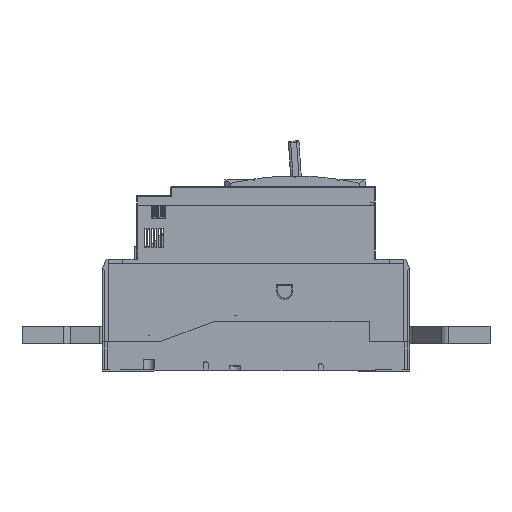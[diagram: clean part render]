
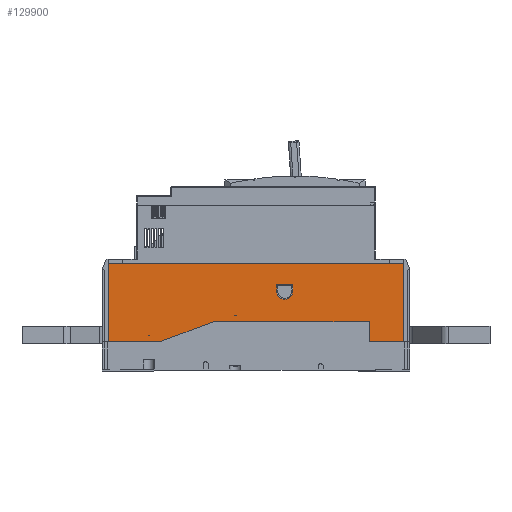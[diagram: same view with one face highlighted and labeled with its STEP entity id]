
A CAD part, left-side view. The second image highlights one B-rep face of the part: STEP entity #129900.
In plain terms, the highlighted planar face has unit normal (-1, 0, 0).
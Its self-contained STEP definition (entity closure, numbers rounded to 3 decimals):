
#1052 = LINE ( 'NONE', #111016, #133999 ) ;
#1695 = ORIENTED_EDGE ( 'NONE', *, *, #130071, .F. ) ;
#8340 = EDGE_CURVE ( 'NONE', #258971, #156158, #207686, .T. ) ;
#15674 = EDGE_CURVE ( 'NONE', #149811, #55877, #191652, .T. ) ;
#15709 = FACE_BOUND ( 'NONE', #49716, .T. ) ;
#16926 = EDGE_CURVE ( 'NONE', #239949, #192778, #1052, .T. ) ;
#20308 = PLANE ( 'NONE',  #187570 ) ;
#21338 = VERTEX_POINT ( 'NONE', #276199 ) ;
#22772 = VECTOR ( 'NONE', #110323, 1000. ) ;
#23838 = ORIENTED_EDGE ( 'NONE', *, *, #43282, .T. ) ;
#31166 = ORIENTED_EDGE ( 'NONE', *, *, #79852, .T. ) ;
#40836 = DIRECTION ( 'NONE',  ( -1., 0., 0. ) ) ;
#43282 = EDGE_CURVE ( 'NONE', #207416, #149811, #110091, .T. ) ;
#44387 = DIRECTION ( 'NONE',  ( 0., 0., -1. ) ) ;
#45872 = CARTESIAN_POINT ( 'NONE',  ( -350.2, 247.8, -25.1 ) ) ;
#48085 = VECTOR ( 'NONE', #222066, 1000. ) ;
#49716 = EDGE_LOOP ( 'NONE', ( #210489, #226167, #163193, #167689 ) ) ;
#50553 = LINE ( 'NONE', #260004, #60954 ) ;
#51316 = ORIENTED_EDGE ( 'NONE', *, *, #8340, .T. ) ;
#55877 = VERTEX_POINT ( 'NONE', #45872 ) ;
#56747 = CARTESIAN_POINT ( 'NONE',  ( -350.2, 203., -93.1 ) ) ;
#57241 = EDGE_CURVE ( 'NONE', #192778, #89520, #137713, .T. ) ;
#60954 = VECTOR ( 'NONE', #257097, 1000. ) ;
#64316 = ORIENTED_EDGE ( 'NONE', *, *, #90214, .F. ) ;
#66093 = CARTESIAN_POINT ( 'NONE',  ( -350.2, 119., -93.1 ) ) ;
#67235 = DIRECTION ( 'NONE',  ( 0., 1., 0. ) ) ;
#70437 = EDGE_CURVE ( 'NONE', #128225, #239949, #201815, .T. ) ;
#75114 = ORIENTED_EDGE ( 'NONE', *, *, #154004, .T. ) ;
#79852 = EDGE_CURVE ( 'NONE', #107634, #217685, #186826, .T. ) ;
#81817 = VECTOR ( 'NONE', #153160, 1000. ) ;
#87304 = CARTESIAN_POINT ( 'NONE',  ( -350.2, 203., -93.1 ) ) ;
#87358 = CARTESIAN_POINT ( 'NONE',  ( -350.2, -9.8, -93.1 ) ) ;
#89520 = VERTEX_POINT ( 'NONE', #241576 ) ;
#89740 = CARTESIAN_POINT ( 'NONE',  ( -350.2, 247.8, -93.1 ) ) ;
#90214 = EDGE_CURVE ( 'NONE', #21338, #55877, #257236, .T. ) ;
#95517 = EDGE_LOOP ( 'NONE', ( #23838, #200384, #64316, #75114, #31166, #1695, #51316, #162973 ) ) ;
#96548 = DIRECTION ( 'NONE',  ( 0., 0., 1. ) ) ;
#107634 = VERTEX_POINT ( 'NONE', #56747 ) ;
#109200 = DIRECTION ( 'NONE',  ( 0., -1., 0. ) ) ;
#110091 = LINE ( 'NONE', #163963, #270929 ) ;
#110323 = DIRECTION ( 'NONE',  ( 0., 0., 1. ) ) ;
#111016 = CARTESIAN_POINT ( 'NONE',  ( -350.2, 101.008, -93.1 ) ) ;
#113230 = LINE ( 'NONE', #66093, #137491 ) ;
#118160 = CARTESIAN_POINT ( 'NONE',  ( -350.2, 20.5, -93.1 ) ) ;
#120341 = DIRECTION ( 'NONE',  ( 0., -1., 0. ) ) ;
#120575 = DIRECTION ( 'NONE',  ( -1., 0., 0. ) ) ;
#122471 = DIRECTION ( 'NONE',  ( 0., 0., 1. ) ) ;
#123583 = CARTESIAN_POINT ( 'NONE',  ( -350.2, 87.008, -43.188 ) ) ;
#124192 = LINE ( 'NONE', #224953, #253431 ) ;
#128225 = VERTEX_POINT ( 'NONE', #123583 ) ;
#129804 = CARTESIAN_POINT ( 'NONE',  ( -350.2, 101.008, -43.188 ) ) ;
#129900 = ADVANCED_FACE ( 'NONE', ( #284947, #15709 ), #20308, .T. ) ;
#130071 = EDGE_CURVE ( 'NONE', #258971, #217685, #193802, .T. ) ;
#133999 = VECTOR ( 'NONE', #44387, 1000. ) ;
#134101 = CARTESIAN_POINT ( 'NONE',  ( -350.2, 119., -25.1 ) ) ;
#135569 = CARTESIAN_POINT ( 'NONE',  ( -350.2, 20.5, -75.6 ) ) ;
#137491 = VECTOR ( 'NONE', #109200, 1000. ) ;
#137713 = CIRCLE ( 'NONE', #199925, 7. ) ;
#141350 = VECTOR ( 'NONE', #67235, 1000. ) ;
#149811 = VERTEX_POINT ( 'NONE', #256087 ) ;
#153160 = DIRECTION ( 'NONE',  ( 0., 0., -1. ) ) ;
#153269 = CARTESIAN_POINT ( 'NONE',  ( -350.2, 119., -93.1 ) ) ;
#154004 = EDGE_CURVE ( 'NONE', #21338, #107634, #113230, .T. ) ;
#156158 = VERTEX_POINT ( 'NONE', #118160 ) ;
#162973 = ORIENTED_EDGE ( 'NONE', *, *, #165967, .T. ) ;
#163193 = ORIENTED_EDGE ( 'NONE', *, *, #16926, .F. ) ;
#163963 = CARTESIAN_POINT ( 'NONE',  ( -350.2, -9.8, -93.1 ) ) ;
#165967 = EDGE_CURVE ( 'NONE', #156158, #207416, #124192, .T. ) ;
#167689 = ORIENTED_EDGE ( 'NONE', *, *, #70437, .F. ) ;
#177549 = CARTESIAN_POINT ( 'NONE',  ( -350.2, 20.5, -75.6 ) ) ;
#179855 = VECTOR ( 'NONE', #263101, 1000. ) ;
#186826 = LINE ( 'NONE', #87304, #179855 ) ;
#186937 = CARTESIAN_POINT ( 'NONE',  ( -350.2, 94.008, -49.088 ) ) ;
#187570 = AXIS2_PLACEMENT_3D ( 'NONE', #153269, #40836, #243160 ) ;
#191652 = LINE ( 'NONE', #134101, #254499 ) ;
#192778 = VERTEX_POINT ( 'NONE', #276508 ) ;
#193802 = LINE ( 'NONE', #135569, #141350 ) ;
#199925 = AXIS2_PLACEMENT_3D ( 'NONE', #186937, #120575, #122471 ) ;
#200384 = ORIENTED_EDGE ( 'NONE', *, *, #15674, .T. ) ;
#201515 = DIRECTION ( 'NONE',  ( 0., 1., 0. ) ) ;
#201815 = LINE ( 'NONE', #267959, #48085 ) ;
#207416 = VERTEX_POINT ( 'NONE', #87358 ) ;
#207686 = LINE ( 'NONE', #177549, #81817 ) ;
#210489 = ORIENTED_EDGE ( 'NONE', *, *, #233530, .F. ) ;
#217685 = VERTEX_POINT ( 'NONE', #269893 ) ;
#222066 = DIRECTION ( 'NONE',  ( 0., 1., 0. ) ) ;
#224953 = CARTESIAN_POINT ( 'NONE',  ( -350.2, 119., -93.1 ) ) ;
#226167 = ORIENTED_EDGE ( 'NONE', *, *, #57241, .F. ) ;
#229248 = CARTESIAN_POINT ( 'NONE',  ( -350.2, 20.5, -75.6 ) ) ;
#233530 = EDGE_CURVE ( 'NONE', #89520, #128225, #50553, .T. ) ;
#239949 = VERTEX_POINT ( 'NONE', #129804 ) ;
#241576 = CARTESIAN_POINT ( 'NONE',  ( -350.2, 87.008, -49.088 ) ) ;
#243160 = DIRECTION ( 'NONE',  ( 0., 0., 1. ) ) ;
#253431 = VECTOR ( 'NONE', #120341, 1000. ) ;
#254499 = VECTOR ( 'NONE', #201515, 1000. ) ;
#256087 = CARTESIAN_POINT ( 'NONE',  ( -350.2, -9.8, -25.1 ) ) ;
#257097 = DIRECTION ( 'NONE',  ( 0., 0., 1. ) ) ;
#257236 = LINE ( 'NONE', #89740, #22772 ) ;
#258971 = VERTEX_POINT ( 'NONE', #229248 ) ;
#260004 = CARTESIAN_POINT ( 'NONE',  ( -350.2, 87.008, -93.1 ) ) ;
#263101 = DIRECTION ( 'NONE',  ( 0., -0.937, 0.349 ) ) ;
#267959 = CARTESIAN_POINT ( 'NONE',  ( -350.2, 87.108, -43.188 ) ) ;
#269893 = CARTESIAN_POINT ( 'NONE',  ( -350.2, 156., -75.6 ) ) ;
#270929 = VECTOR ( 'NONE', #96548, 1000. ) ;
#276199 = CARTESIAN_POINT ( 'NONE',  ( -350.2, 247.8, -93.1 ) ) ;
#276508 = CARTESIAN_POINT ( 'NONE',  ( -350.2, 101.008, -49.088 ) ) ;
#284947 = FACE_OUTER_BOUND ( 'NONE', #95517, .T. ) ;
